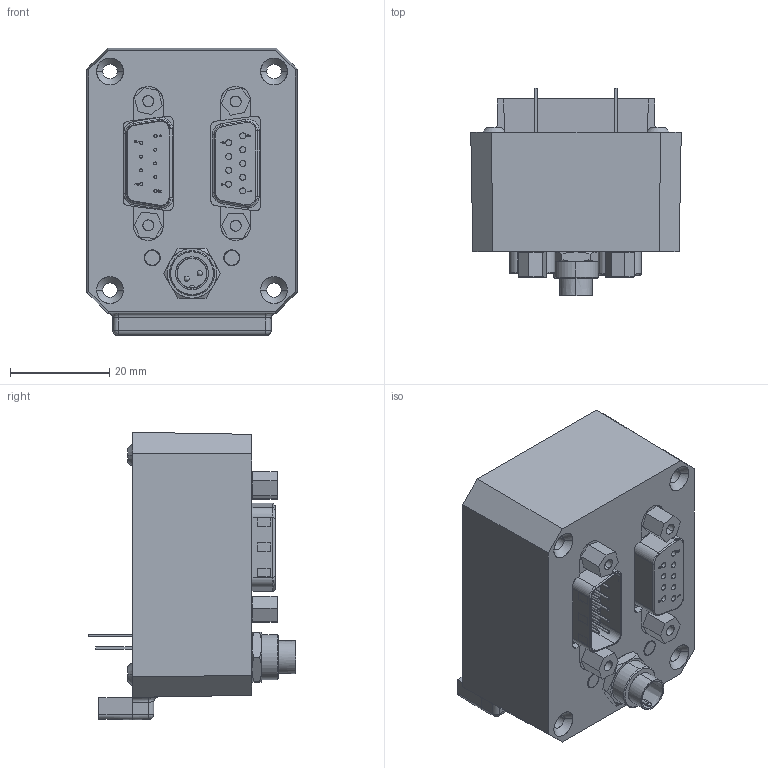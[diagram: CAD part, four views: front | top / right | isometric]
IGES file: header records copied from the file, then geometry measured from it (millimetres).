
Start section: SolidWorks IGES file using analytic representation for surfaces
Global section: file name: \\MYODRIVE\Public\CAD Files\Motors\CoolmuscleMotors\CM1-InterfaceOptions\CM1 SRLX\CM1SRL-Rev5.IGS; native system: SolidWorks 2015; preprocessor: SolidWorks 2015; author: RENDER; date: 150210.134827; units: millimetre
Bounding box: 42.35 x 41.7 x 57.85 mm (x, y, z)
Surface area: 25695.4 mm2 (no closed solid volume)
Topology: 0 solids, 0 shells, 1340 faces, 12244 edges, 12235 vertices
Faces by surface type: bspline 954, revolution 386
